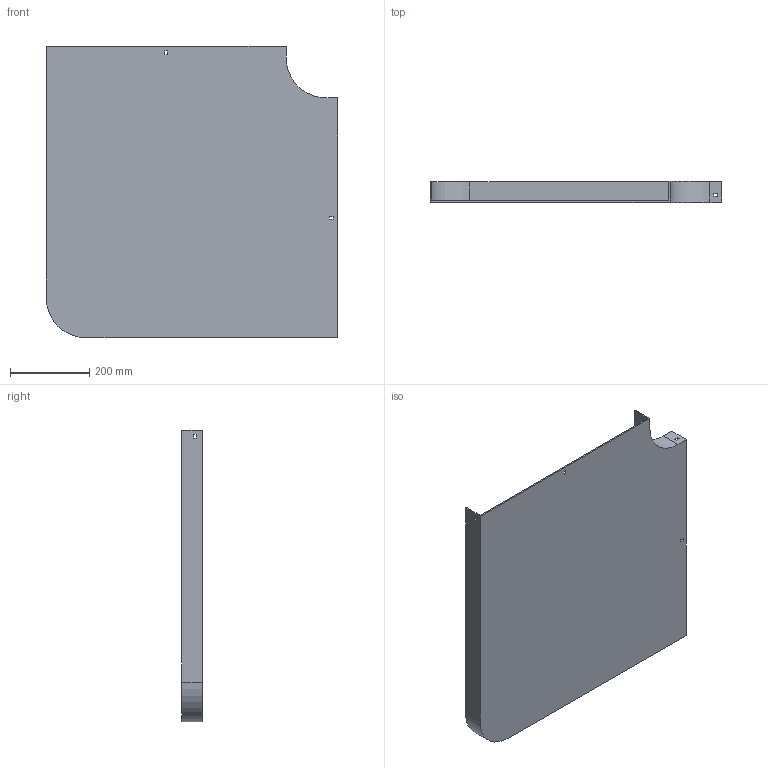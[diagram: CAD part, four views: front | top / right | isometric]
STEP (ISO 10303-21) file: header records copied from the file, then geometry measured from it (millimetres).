
FILE_DESCRIPTION (( 'STEP AP214' ), '1' );
FILE_NAME ('10F1B600.step', '2025-02-21T12:57:18', ( '' ), ( '' ), 'SwSTEP 2.0', 'SolidWorks 2023', '' );
FILE_SCHEMA (( 'AUTOMOTIVE_DESIGN' ));
Length unit declared in the file: millimetre
Products named in the file (1): 10F1B600
Bounding box: 734 x 52 x 734 mm (x, y, z)
Volume: 2103863 mm3; surface area: 1213555 mm2
Topology: 1 solids, 1 shells, 42 faces, 120 edges, 80 vertices
Faces by surface type: plane 38, cylinder 4
Entity records: 1399 total; most frequent: CARTESIAN_POINT 243, ORIENTED_EDGE 240, DIRECTION 214, EDGE_CURVE 120, LINE 112, VECTOR 112, VERTEX_POINT 80, EDGE_LOOP 54
